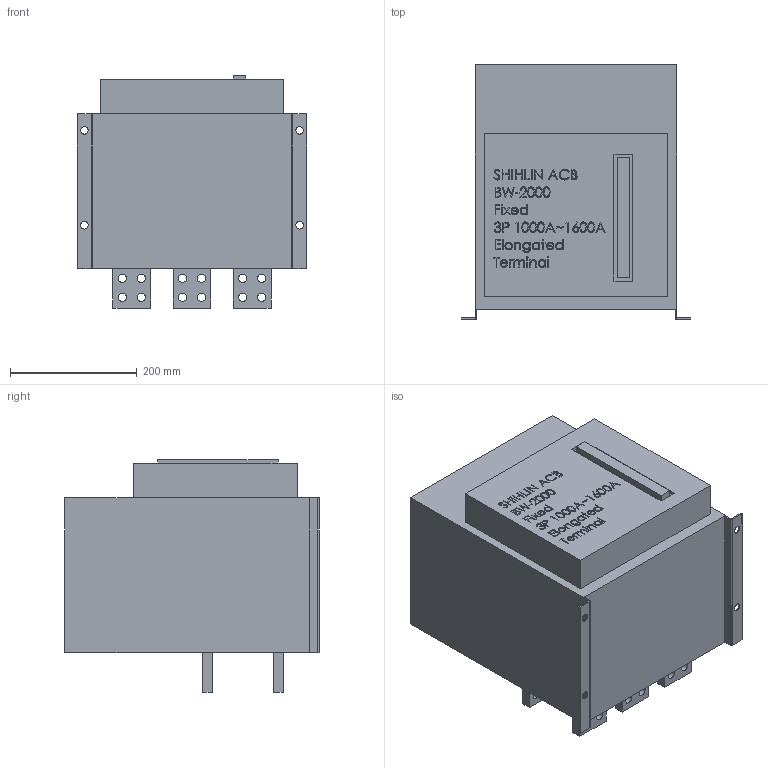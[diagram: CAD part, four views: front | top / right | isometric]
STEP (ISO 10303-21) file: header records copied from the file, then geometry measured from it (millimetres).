
FILE_DESCRIPTION (( 'STEP AP203' ), '1' );
FILE_NAME ('BW-2000-Fixed-3P-1000-1600A-Elongated Terminal.STEP', '2020-04-09T10:59:39', ( '' ), ( '' ), 'SwSTEP 2.0', 'SolidWorks 2017', '' );
FILE_SCHEMA (( 'CONFIG_CONTROL_DESIGN' ));
Length unit declared in the file: millimetre
Products named in the file (1): BW-2000-Fixed-3P-1000-1600A-Elongated Terminal
Bounding box: 362 x 402 x 367 mm (x, y, z)
Volume: 34511683.9 mm3; surface area: 794972.1 mm2
Topology: 3 solids, 3 shells, 775 faces, 2040 edges, 1360 vertices
Faces by surface type: plane 438, bspline 279, cylinder 58
Entity records: 39661 total; most frequent: CARTESIAN_POINT 22095, ORIENTED_EDGE 4080, DIRECTION 2592, EDGE_CURVE 2040, LINE 1366, VECTOR 1366, VERTEX_POINT 1360, EDGE_LOOP 920
